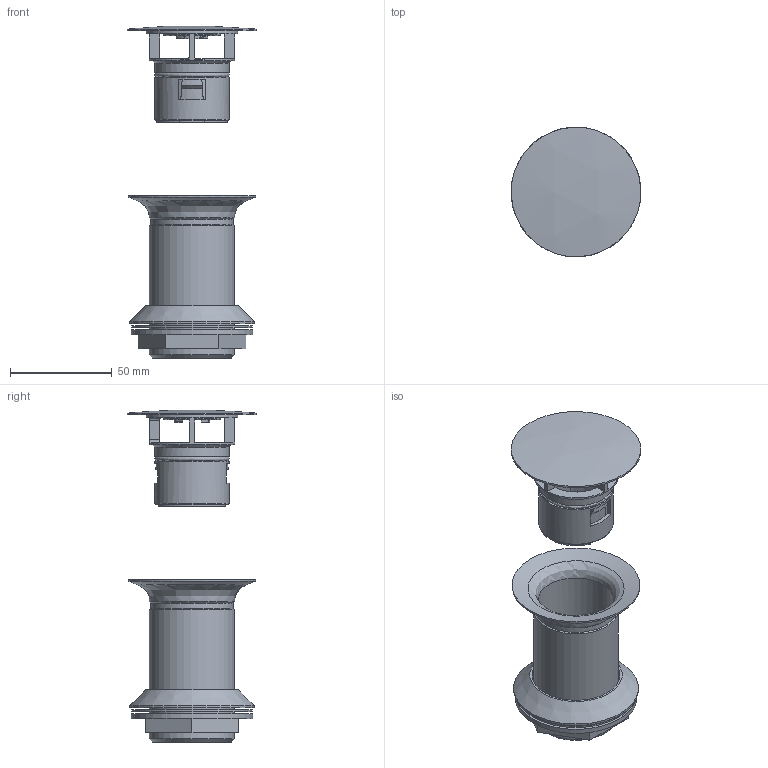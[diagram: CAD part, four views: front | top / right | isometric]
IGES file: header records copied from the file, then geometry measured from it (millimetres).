
Global section: file name: 152080; native system: Autodesk Inventor 2014; preprocessor: unknown; author: seihe2; date: 20170628.153826; units: millimetre
Bounding box: 63.98 x 63.98 x 163.51 mm (x, y, z)
Volume: 59666.4 mm3; surface area: 60016.8 mm2
Topology: 8 solids, 8 shells, 238 faces, 680 edges, 444 vertices
Faces by surface type: plane 125, revolution 47, cone 41, cylinder 17, bspline 7, sphere 1
Full cylindrical faces by diameter (mm): 33.7 x1, 36.6 x2, 40.6 x1, 41.91 x1, 42 x1, 59.5 x1, 59.7 x1, 61.5 x1, 63 x1
